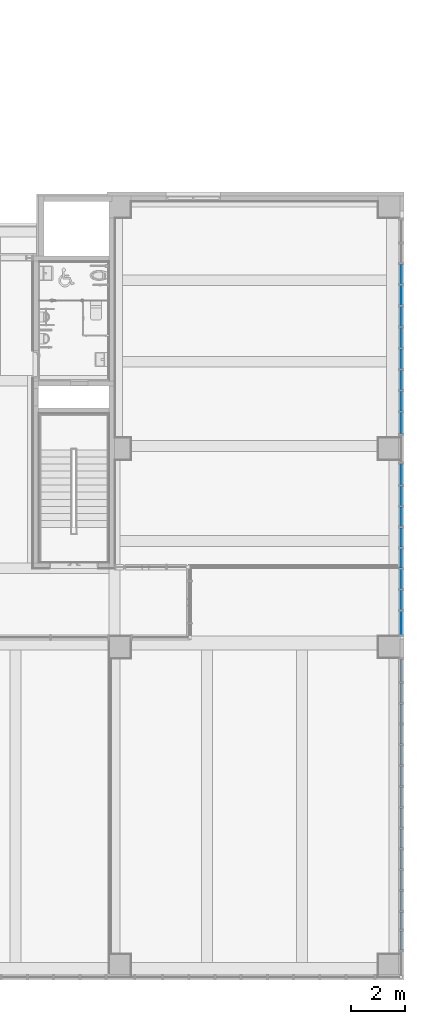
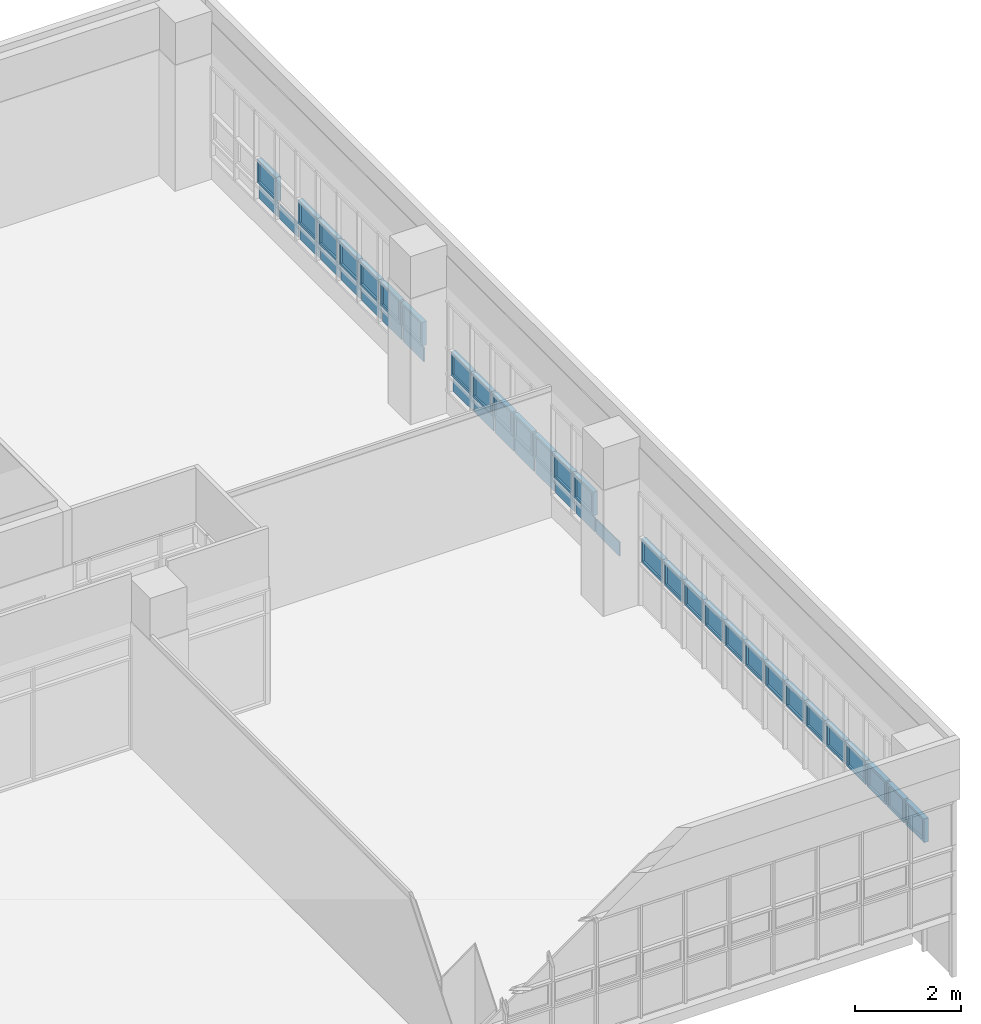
# One storey, part 39 of 81: 44 plates, 2 elements without a shape of their own.
"""IFC2X3 building model written with IfcOpenShell, lengths in millimetres."""

from ifc_helpers import new_model, entity, si_unit, converted_unit, derived_unit, direction, frame, origin, origin_2d_with_axis, place, context, subcontext, project, spatial, polyline, rectangle, outline, extrude, source, transform, mapped, material, material_list, type_object, type_shapes, element, aggregate, save


model = new_model("IFC2X3")

# Units and contexts
model_context = context("Model", 3, precision=0.01, world=origin(), true_north=direction((6.123031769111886e-17, 1.0)))
body_context = subcontext(model_context, "Body", "Model", "MODEL_VIEW")
ifc_project = project(units=[si_unit("LENGTHUNIT", "METRE", prefix="MILLI"), si_unit("AREAUNIT", "SQUARE_METRE"), si_unit("VOLUMEUNIT", "CUBIC_METRE"), converted_unit("PLANEANGLEUNIT", "DEGREE", entity("IfcRatioMeasure", 0.017453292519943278), si_unit("PLANEANGLEUNIT", "RADIAN"), dimensions=[0, 0, 0, 0, 0, 0, 0]), si_unit("MASSUNIT", "GRAM", prefix="KILO"), derived_unit("MASSDENSITYUNIT", [(si_unit("MASSUNIT", "GRAM", prefix="KILO"), 1), (si_unit("LENGTHUNIT", "METRE"), -3)]), derived_unit("MOMENTOFINERTIAUNIT", [(si_unit("LENGTHUNIT", "METRE"), 4)]), si_unit("TIMEUNIT", "SECOND"), si_unit("FREQUENCYUNIT", "HERTZ"), si_unit("THERMODYNAMICTEMPERATUREUNIT", "DEGREE_CELSIUS"), derived_unit("THERMALTRANSMITTANCEUNIT", [(si_unit("MASSUNIT", "GRAM", prefix="KILO"), 1), (si_unit("THERMODYNAMICTEMPERATUREUNIT", "KELVIN"), -1), (si_unit("TIMEUNIT", "SECOND"), -3)]), derived_unit("VOLUMETRICFLOWRATEUNIT", [(si_unit("LENGTHUNIT", "METRE"), 3), (si_unit("TIMEUNIT", "SECOND"), -1)]), derived_unit("MASSFLOWRATEUNIT", [(si_unit("MASSUNIT", "GRAM", prefix="KILO"), 1), (si_unit("TIMEUNIT", "SECOND"), -1)]), derived_unit("ROTATIONALFREQUENCYUNIT", [(si_unit("TIMEUNIT", "SECOND"), -1)]), si_unit("ELECTRICCURRENTUNIT", "AMPERE"), si_unit("ELECTRICVOLTAGEUNIT", "VOLT"), si_unit("POWERUNIT", "WATT"), si_unit("FORCEUNIT", "NEWTON", prefix="KILO"), si_unit("ILLUMINANCEUNIT", "LUX"), si_unit("LUMINOUSFLUXUNIT", "LUMEN"), si_unit("LUMINOUSINTENSITYUNIT", "CANDELA"), derived_unit("USERDEFINED", [(si_unit("MASSUNIT", "GRAM", prefix="KILO"), -1), (si_unit("LENGTHUNIT", "METRE"), -2), (si_unit("TIMEUNIT", "SECOND"), 3), (si_unit("LUMINOUSFLUXUNIT", "LUMEN"), 1)]), derived_unit("SOUNDPOWERUNIT", [(si_unit("MASSUNIT", "GRAM", prefix="KILO"), 1), (si_unit("LENGTHUNIT", "METRE"), 2), (si_unit("TIMEUNIT", "SECOND"), -3)]), derived_unit("SOUNDPRESSUREUNIT", [(si_unit("MASSUNIT", "GRAM", prefix="KILO"), 1), (si_unit("LENGTHUNIT", "METRE"), -1), (si_unit("TIMEUNIT", "SECOND"), -2)]), derived_unit("LINEARVELOCITYUNIT", [(si_unit("LENGTHUNIT", "METRE"), 1), (si_unit("TIMEUNIT", "SECOND"), -1)]), si_unit("PRESSUREUNIT", "PASCAL"), derived_unit("USERDEFINED", [(si_unit("LENGTHUNIT", "METRE"), -2), (si_unit("MASSUNIT", "GRAM", prefix="KILO"), 1), (si_unit("TIMEUNIT", "SECOND"), -2)]), derived_unit("LINEARFORCEUNIT", [(si_unit("MASSUNIT", "GRAM", prefix="KILO"), 1), (si_unit("LENGTHUNIT", "METRE"), 1), (si_unit("TIMEUNIT", "SECOND"), -2), (si_unit("LENGTHUNIT", "METRE"), -1)]), derived_unit("PLANARFORCEUNIT", [(si_unit("MASSUNIT", "GRAM", prefix="KILO"), 1), (si_unit("LENGTHUNIT", "METRE"), 1), (si_unit("TIMEUNIT", "SECOND"), -2), (si_unit("LENGTHUNIT", "METRE"), -2)])], contexts=[model_context])

# Site, building, storey
site_placement = place(None, frame((-14167.972527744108, -657.2125860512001, 0.0)))
site = spatial("IfcSite", under=ifc_project, at=site_placement, Name="Default", CompositionType="ELEMENT")
building_placement = place(site_placement, origin())
building = spatial("IfcBuilding", under=site, at=building_placement, Name="Sample Building", CompositionType="ELEMENT")
storey_placement = place(building_placement, frame((0.0, 0.0, 13400.0)))
storey = spatial("IfcBuildingStorey", under=building, at=storey_placement, Name="지상 4층", CompositionType="ELEMENT", Elevation=13400.00000000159)

# Curtain wall, plates
curtain_wall_type = type_object("IfcCurtainWallType", Name="커튼월:CW112-스테인리스 스틸 커튼월", PredefinedType="NOTDEFINED")
curtain_wall_1_placement = place(storey_placement, frame((0.0, 0.0, -13400.0)))
curtain_wall_1 = element("IfcCurtainWall", 1, at=curtain_wall_1_placement, inside=storey, type_object=curtain_wall_type, Name="커튼월:CW112-스테인리스 스틸 커튼월", ObjectType="커튼월:CW112-스테인리스 스틸 커튼월")
ifc_material_1 = material(Name="KBIMS-유리")
ifc_material_2 = material(Name="KBIMS-알루미늄")
ifc_material_list_1 = material_list([ifc_material_1, ifc_material_2])
ifc_material_list_2 = material_list([ifc_material_1, ifc_material_2])
plate_type_1 = type_object("IfcPlateType", Name="CW410-프로젝트 창:CW410-프로젝트 창 (하부개폐)", PredefinedType="CURTAIN_PANEL", material=ifc_material_list_2)
shared_shape_1 = source(origin(), body_context, "Body", "SweptSolid", [
    extrude(rectangle(XDim=23.999999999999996, YDim=629.0000000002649, at=origin_2d_with_axis()), frame((0.0, 0.04999999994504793, 50.0), z_axis=(0.0, 0.0, 1.0), x_axis=(0.0, 1.0, 0.0)), (0.0, 0.0, 1.0), 450.0000000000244),
    extrude(outline(polyline([(-364.5000000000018, -275.0), (364.5000000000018, -275.0), (364.5000000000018, 275.0), (-364.5000000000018, 275.0), (-364.5000000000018, -275.0)]), holes=[polyline([(-314.50000000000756, -225.0), (-314.5000000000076, 225.0), (314.5000000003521, 225.0), (314.50000000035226, -225.0), (-314.50000000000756, -225.0)])]), frame((0.0, -49.95000000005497, 275.0), z_axis=(0.0, 1.0, 0.0), x_axis=(1.0, 0.0, 0.0)), (0.0, 0.0, 1.0), 99.99999999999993),
])
type_shapes(plate_type_1, [shared_shape_1])
plate_1_placement = place(curtain_wall_1_placement, frame((51517.96382893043, 26384.21229514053, 14425.0), z_axis=(0.0, 0.0, 1.0), x_axis=(0.0, -1.0, 0.0)))
plate_1 = element("IfcPlate", 2, at=plate_1_placement, type_object=plate_type_1, material=ifc_material_list_1, Name="CW410-프로젝트 창:CW410-프로젝트 창 (하부개폐)", ObjectType="CW410-프로젝트 창:CW410-프로젝트 창 (하부개폐)", context=body_context, shape_type="MappedRepresentation", body=[
    mapped(shared_shape_1, transform((0.0, 0.0, 0.0), scale=1.0)),
])
ifc_material_list_3 = material_list([ifc_material_1, ifc_material_2])
plate_2_placement = place(curtain_wall_1_placement, frame((51517.96382893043, 24826.21229514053, 14425.0), z_axis=(0.0, 0.0, 1.0), x_axis=(0.0, -1.0, 0.0)))
plate_2 = element("IfcPlate", 3, at=plate_2_placement, type_object=plate_type_1, material=ifc_material_list_3, Name="CW410-프로젝트 창:CW410-프로젝트 창 (하부개폐)", ObjectType="CW410-프로젝트 창:CW410-프로젝트 창 (하부개폐)", context=body_context, shape_type="MappedRepresentation", body=[
    mapped(shared_shape_1, transform((0.0, 0.0, 0.0), scale=1.0)),
])
ifc_material_list_4 = material_list([ifc_material_1, ifc_material_2])
plate_3_placement = place(curtain_wall_1_placement, frame((51517.96382893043, 24047.212295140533, 14425.0), z_axis=(0.0, 0.0, 1.0), x_axis=(0.0, -1.0, 0.0)))
plate_3 = element("IfcPlate", 4, at=plate_3_placement, type_object=plate_type_1, material=ifc_material_list_4, Name="CW410-프로젝트 창:CW410-프로젝트 창 (하부개폐)", ObjectType="CW410-프로젝트 창:CW410-프로젝트 창 (하부개폐)", context=body_context, shape_type="MappedRepresentation", body=[
    mapped(shared_shape_1, transform((0.0, 0.0, 0.0), scale=1.0)),
])
ifc_material_list_5 = material_list([ifc_material_1, ifc_material_2])
plate_4_placement = place(curtain_wall_1_placement, frame((51517.963828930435, 23268.21229514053, 14425.0), z_axis=(0.0, 0.0, 1.0), x_axis=(0.0, -1.0, 0.0)))
plate_4 = element("IfcPlate", 5, at=plate_4_placement, type_object=plate_type_1, material=ifc_material_list_5, Name="CW410-프로젝트 창:CW410-프로젝트 창 (하부개폐)", ObjectType="CW410-프로젝트 창:CW410-프로젝트 창 (하부개폐)", context=body_context, shape_type="MappedRepresentation", body=[
    mapped(shared_shape_1, transform((0.0, 0.0, 0.0), scale=1.0)),
])
ifc_material_list_6 = material_list([ifc_material_1, ifc_material_2])
plate_5_placement = place(curtain_wall_1_placement, frame((51517.963828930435, 22489.212295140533, 14425.0), z_axis=(0.0, 0.0, 1.0), x_axis=(0.0, -1.0, 0.0)))
plate_5 = element("IfcPlate", 6, at=plate_5_placement, type_object=plate_type_1, material=ifc_material_list_6, Name="CW410-프로젝트 창:CW410-프로젝트 창 (하부개폐)", ObjectType="CW410-프로젝트 창:CW410-프로젝트 창 (하부개폐)", context=body_context, shape_type="MappedRepresentation", body=[
    mapped(shared_shape_1, transform((0.0, 0.0, 0.0), scale=1.0)),
])
ifc_material_list_7 = material_list([ifc_material_1, ifc_material_2])
plate_6_placement = place(curtain_wall_1_placement, frame((51517.963828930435, 21710.21229514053, 14425.0), z_axis=(0.0, 0.0, 1.0), x_axis=(0.0, -1.0, 0.0)))
plate_6 = element("IfcPlate", 7, at=plate_6_placement, type_object=plate_type_1, material=ifc_material_list_7, Name="CW410-프로젝트 창:CW410-프로젝트 창 (하부개폐)", ObjectType="CW410-프로젝트 창:CW410-프로젝트 창 (하부개폐)", context=body_context, shape_type="MappedRepresentation", body=[
    mapped(shared_shape_1, transform((0.0, 0.0, 0.0), scale=1.0)),
])
ifc_material_list_8 = material_list([ifc_material_1, ifc_material_2])
ifc_material_list_9 = material_list([ifc_material_1, ifc_material_2])
plate_type_2 = type_object("IfcPlateType", Name="CW410-프로젝트 창:CW410-프로젝트 창 (하부개폐)", PredefinedType="CURTAIN_PANEL", material=ifc_material_list_9)
shared_shape_2 = source(origin(), body_context, "Body", "SweptSolid", [
    extrude(rectangle(XDim=23.999999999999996, YDim=689.0000000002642, at=origin_2d_with_axis()), frame((0.0, 0.04999999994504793, 50.0), z_axis=(0.0, 0.0, 1.0), x_axis=(0.0, 1.0, 0.0)), (0.0, 0.0, 1.0), 450.0000000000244),
    extrude(outline(polyline([(-394.5000000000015, -275.0), (394.5000000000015, -275.0), (394.5000000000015, 275.0), (-394.5000000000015, 275.0), (-394.5000000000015, -275.0)]), holes=[polyline([(-344.5000000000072, -225.0), (-344.5000000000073, 225.0), (344.5000000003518, 225.0), (344.5000000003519, -225.0), (-344.5000000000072, -225.0)])]), frame((0.0, -49.95000000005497, 275.0), z_axis=(0.0, 1.0, 0.0), x_axis=(1.0, 0.0, 0.0)), (0.0, 0.0, 1.0), 99.99999999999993),
])
type_shapes(plate_type_2, [shared_shape_2])
plate_7_placement = place(curtain_wall_1_placement, frame((51517.963828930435, 20901.21229514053, 14425.0), z_axis=(0.0, 0.0, 1.0), x_axis=(0.0, -1.0, 0.0)))
plate_7 = element("IfcPlate", 8, at=plate_7_placement, type_object=plate_type_2, material=ifc_material_list_8, Name="CW410-프로젝트 창:CW410-프로젝트 창 (하부개폐)", ObjectType="CW410-프로젝트 창:CW410-프로젝트 창 (하부개폐)", context=body_context, shape_type="MappedRepresentation", body=[
    mapped(shared_shape_2, transform((0.0, 0.0, 0.0), scale=1.0)),
])
ifc_material_list_10 = material_list([ifc_material_1, ifc_material_2])
ifc_material_list_11 = material_list([ifc_material_1, ifc_material_2])
plate_type_3 = type_object("IfcPlateType", Name="CW410-프로젝트 창:CW410-프로젝트 창 (하부개폐)", PredefinedType="CURTAIN_PANEL", material=ifc_material_list_11)
shared_shape_3 = source(origin(), body_context, "Body", "SweptSolid", [
    extrude(rectangle(XDim=23.999999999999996, YDim=676.0000000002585, at=origin_2d_with_axis()), frame((0.0, 0.04999999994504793, 50.0), z_axis=(0.0, 0.0, 1.0), x_axis=(0.0, 1.0, 0.0)), (0.0, 0.0, 1.0), 450.0000000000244),
    extrude(outline(polyline([(-388.0, -275.0), (388.0, -275.0), (388.0, 275.0), (-388.0, 275.0), (-388.0, -275.0)]), holes=[polyline([(-338.0, -225.0), (-338.0, 225.0), (338.0, 225.0), (338.0, -225.0), (-338.0, -225.0)])]), frame((0.0, -49.95000000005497, 275.0), z_axis=(0.0, 1.0, 0.0), x_axis=(1.0, 0.0, 0.0)), (0.0, 0.0, 1.0), 99.99999999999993),
])
type_shapes(plate_type_3, [shared_shape_3])
plate_8_placement = place(curtain_wall_1_placement, frame((51517.963828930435, 19018.71229514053, 14425.0), z_axis=(0.0, 0.0, 1.0), x_axis=(0.0, -1.0, 0.0)))
plate_8 = element("IfcPlate", 9, at=plate_8_placement, type_object=plate_type_3, material=ifc_material_list_10, Name="CW410-프로젝트 창:CW410-프로젝트 창 (하부개폐)", ObjectType="CW410-프로젝트 창:CW410-프로젝트 창 (하부개폐)", context=body_context, shape_type="MappedRepresentation", body=[
    mapped(shared_shape_3, transform((0.0, 0.0, 0.0), scale=1.0)),
])

curtain_wall_2_placement = place(storey_placement, frame((0.0, 0.0, -13400.0)))
curtain_wall_2 = element("IfcCurtainWall", 10, at=curtain_wall_2_placement, inside=storey, type_object=curtain_wall_type, Name="커튼월:CW112-스테인리스 스틸 커튼월", ObjectType="커튼월:CW112-스테인리스 스틸 커튼월")
ifc_material_list_12 = material_list([ifc_material_1, ifc_material_2])
ifc_material_list_13 = material_list([ifc_material_1, ifc_material_2])
plate_type_4 = type_object("IfcPlateType", Name="CW410-프로젝트 창:CW410-프로젝트 창 (하부개폐)", PredefinedType="CURTAIN_PANEL", material=ifc_material_list_13)
shared_shape_4 = source(origin(), body_context, "Body", "SweptSolid", [
    extrude(rectangle(XDim=23.999999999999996, YDim=616.0000000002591, at=origin_2d_with_axis()), frame((0.0, 0.04999999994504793, 50.0), z_axis=(0.0, 0.0, 1.0), x_axis=(0.0, 1.0, 0.0)), (0.0, 0.0, 1.0), 450.0000000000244),
    extrude(outline(polyline([(-358.0, -275.0), (358.0, -275.0), (358.0, 275.0), (-358.0, 275.0), (-358.0, -275.0)]), holes=[polyline([(-308.0, -225.0), (-308.0, 225.0), (308.0, 225.0), (308.0, -225.0), (-308.0, -225.0)])]), frame((0.0, -49.95000000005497, 275.0), z_axis=(0.0, 1.0, 0.0), x_axis=(1.0, 0.0, 0.0)), (0.0, 0.0, 1.0), 99.99999999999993),
])
type_shapes(plate_type_4, [shared_shape_4])
plate_9_placement = place(curtain_wall_2_placement, frame((51517.96382893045, 10976.783036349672, 14475.0), z_axis=(0.0, 0.0, 1.0), x_axis=(0.0, -1.0, 0.0)))
plate_9 = element("IfcPlate", 11, at=plate_9_placement, type_object=plate_type_4, material=ifc_material_list_12, Name="CW410-프로젝트 창:CW410-프로젝트 창 (하부개폐)", ObjectType="CW410-프로젝트 창:CW410-프로젝트 창 (하부개폐)", context=body_context, shape_type="MappedRepresentation", body=[
    mapped(shared_shape_4, transform((0.0, 0.0, 0.0), scale=1.0)),
])
ifc_material_list_14 = material_list([ifc_material_1, ifc_material_2])
plate_10_placement = place(curtain_wall_2_placement, frame((51517.96382893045, 10210.783036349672, 14475.0), z_axis=(0.0, 0.0, 1.0), x_axis=(0.0, -1.0, 0.0)))
plate_10 = element("IfcPlate", 12, at=plate_10_placement, type_object=plate_type_4, material=ifc_material_list_14, Name="CW410-프로젝트 창:CW410-프로젝트 창 (하부개폐)", ObjectType="CW410-프로젝트 창:CW410-프로젝트 창 (하부개폐)", context=body_context, shape_type="MappedRepresentation", body=[
    mapped(shared_shape_4, transform((0.0, 0.0, 0.0), scale=1.0)),
])
ifc_material_list_15 = material_list([ifc_material_1, ifc_material_2])
plate_11_placement = place(curtain_wall_2_placement, frame((51517.96382893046, 9444.783036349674, 14475.0), z_axis=(0.0, 0.0, 1.0), x_axis=(0.0, -1.0, 0.0)))
plate_11 = element("IfcPlate", 13, at=plate_11_placement, type_object=plate_type_4, material=ifc_material_list_15, Name="CW410-프로젝트 창:CW410-프로젝트 창 (하부개폐)", ObjectType="CW410-프로젝트 창:CW410-프로젝트 창 (하부개폐)", context=body_context, shape_type="MappedRepresentation", body=[
    mapped(shared_shape_4, transform((0.0, 0.0, 0.0), scale=1.0)),
])
ifc_material_list_16 = material_list([ifc_material_1, ifc_material_2])
plate_12_placement = place(curtain_wall_2_placement, frame((51517.96382893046, 8678.783036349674, 14475.0), z_axis=(0.0, 0.0, 1.0), x_axis=(0.0, -1.0, 0.0)))
plate_12 = element("IfcPlate", 14, at=plate_12_placement, type_object=plate_type_4, material=ifc_material_list_16, Name="CW410-프로젝트 창:CW410-프로젝트 창 (하부개폐)", ObjectType="CW410-프로젝트 창:CW410-프로젝트 창 (하부개폐)", context=body_context, shape_type="MappedRepresentation", body=[
    mapped(shared_shape_4, transform((0.0, 0.0, 0.0), scale=1.0)),
])
ifc_material_list_17 = material_list([ifc_material_1, ifc_material_2])
plate_13_placement = place(curtain_wall_2_placement, frame((51517.96382893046, 7912.783036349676, 14475.0), z_axis=(0.0, 0.0, 1.0), x_axis=(0.0, -1.0, 0.0)))
plate_13 = element("IfcPlate", 15, at=plate_13_placement, type_object=plate_type_4, material=ifc_material_list_17, Name="CW410-프로젝트 창:CW410-프로젝트 창 (하부개폐)", ObjectType="CW410-프로젝트 창:CW410-프로젝트 창 (하부개폐)", context=body_context, shape_type="MappedRepresentation", body=[
    mapped(shared_shape_4, transform((0.0, 0.0, 0.0), scale=1.0)),
])
ifc_material_list_18 = material_list([ifc_material_1, ifc_material_2])
plate_14_placement = place(curtain_wall_2_placement, frame((51517.96382893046, 7146.783036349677, 14475.0), z_axis=(0.0, 0.0, 1.0), x_axis=(0.0, -1.0, 0.0)))
plate_14 = element("IfcPlate", 16, at=plate_14_placement, type_object=plate_type_4, material=ifc_material_list_18, Name="CW410-프로젝트 창:CW410-프로젝트 창 (하부개폐)", ObjectType="CW410-프로젝트 창:CW410-프로젝트 창 (하부개폐)", context=body_context, shape_type="MappedRepresentation", body=[
    mapped(shared_shape_4, transform((0.0, 0.0, 0.0), scale=1.0)),
])
ifc_material_list_19 = material_list([ifc_material_1, ifc_material_2])
plate_15_placement = place(curtain_wall_2_placement, frame((51517.96382893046, 6380.783036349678, 14475.0), z_axis=(0.0, 0.0, 1.0), x_axis=(0.0, -1.0, 0.0)))
plate_15 = element("IfcPlate", 17, at=plate_15_placement, type_object=plate_type_4, material=ifc_material_list_19, Name="CW410-프로젝트 창:CW410-프로젝트 창 (하부개폐)", ObjectType="CW410-프로젝트 창:CW410-프로젝트 창 (하부개폐)", context=body_context, shape_type="MappedRepresentation", body=[
    mapped(shared_shape_4, transform((0.0, 0.0, 0.0), scale=1.0)),
])
ifc_material_list_20 = material_list([ifc_material_1, ifc_material_2])
plate_16_placement = place(curtain_wall_2_placement, frame((51517.96382893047, 5614.783036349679, 14475.0), z_axis=(0.0, 0.0, 1.0), x_axis=(0.0, -1.0, 0.0)))
plate_16 = element("IfcPlate", 18, at=plate_16_placement, type_object=plate_type_4, material=ifc_material_list_20, Name="CW410-프로젝트 창:CW410-프로젝트 창 (하부개폐)", ObjectType="CW410-프로젝트 창:CW410-프로젝트 창 (하부개폐)", context=body_context, shape_type="MappedRepresentation", body=[
    mapped(shared_shape_4, transform((0.0, 0.0, 0.0), scale=1.0)),
])
ifc_material_list_21 = material_list([ifc_material_1, ifc_material_2])
plate_17_placement = place(curtain_wall_2_placement, frame((51517.96382893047, 4848.78303634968, 14475.0), z_axis=(0.0, 0.0, 1.0), x_axis=(0.0, -1.0, 0.0)))
plate_17 = element("IfcPlate", 19, at=plate_17_placement, type_object=plate_type_4, material=ifc_material_list_21, Name="CW410-프로젝트 창:CW410-프로젝트 창 (하부개폐)", ObjectType="CW410-프로젝트 창:CW410-프로젝트 창 (하부개폐)", context=body_context, shape_type="MappedRepresentation", body=[
    mapped(shared_shape_4, transform((0.0, 0.0, 0.0), scale=1.0)),
])
ifc_material_list_22 = material_list([ifc_material_1, ifc_material_2])
plate_18_placement = place(curtain_wall_2_placement, frame((51517.96382893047, 4082.78303634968, 14475.0), z_axis=(0.0, 0.0, 1.0), x_axis=(0.0, -1.0, 0.0)))
plate_18 = element("IfcPlate", 20, at=plate_18_placement, type_object=plate_type_4, material=ifc_material_list_22, Name="CW410-프로젝트 창:CW410-프로젝트 창 (하부개폐)", ObjectType="CW410-프로젝트 창:CW410-프로젝트 창 (하부개폐)", context=body_context, shape_type="MappedRepresentation", body=[
    mapped(shared_shape_4, transform((0.0, 0.0, 0.0), scale=1.0)),
])
ifc_material_list_23 = material_list([ifc_material_1, ifc_material_2])
plate_19_placement = place(curtain_wall_2_placement, frame((51517.96382893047, 3316.783036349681, 14475.0), z_axis=(0.0, 0.0, 1.0), x_axis=(0.0, -1.0, 0.0)))
plate_19 = element("IfcPlate", 21, at=plate_19_placement, type_object=plate_type_4, material=ifc_material_list_23, Name="CW410-프로젝트 창:CW410-프로젝트 창 (하부개폐)", ObjectType="CW410-프로젝트 창:CW410-프로젝트 창 (하부개폐)", context=body_context, shape_type="MappedRepresentation", body=[
    mapped(shared_shape_4, transform((0.0, 0.0, 0.0), scale=1.0)),
])

# Plate
ifc_material_list_24 = material_list([ifc_material_1, ifc_material_2])
plate_20_placement = place(curtain_wall_1_placement, frame((51517.96382893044, 18222.71229514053, 14425.0), z_axis=(0.0, 0.0, 1.0), x_axis=(0.0, -1.0, 0.0)))
plate_20 = element("IfcPlate", 22, at=plate_20_placement, type_object=plate_type_4, material=ifc_material_list_24, Name="CW410-프로젝트 창:CW410-프로젝트 창 (하부개폐)", ObjectType="CW410-프로젝트 창:CW410-프로젝트 창 (하부개폐)", context=body_context, shape_type="MappedRepresentation", body=[
    mapped(shared_shape_4, transform((0.0, 0.0, 0.0), scale=1.0)),
])

ifc_material_list_25 = material_list([ifc_material_1, ifc_material_2])
plate_21_placement = place(curtain_wall_1_placement, frame((51517.96382893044, 17456.71229514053, 14425.0), z_axis=(0.0, 0.0, 1.0), x_axis=(0.0, -1.0, 0.0)))
plate_21 = element("IfcPlate", 23, at=plate_21_placement, type_object=plate_type_4, material=ifc_material_list_25, Name="CW410-프로젝트 창:CW410-프로젝트 창 (하부개폐)", ObjectType="CW410-프로젝트 창:CW410-프로젝트 창 (하부개폐)", context=body_context, shape_type="MappedRepresentation", body=[
    mapped(shared_shape_4, transform((0.0, 0.0, 0.0), scale=1.0)),
])

ifc_material_list_26 = material_list([ifc_material_1, ifc_material_2])
plate_22_placement = place(curtain_wall_1_placement, frame((51517.96382893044, 16690.71229514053, 14425.0), z_axis=(0.0, 0.0, 1.0), x_axis=(0.0, -1.0, 0.0)))
plate_22 = element("IfcPlate", 24, at=plate_22_placement, type_object=plate_type_4, material=ifc_material_list_26, Name="CW410-프로젝트 창:CW410-프로젝트 창 (하부개폐)", ObjectType="CW410-프로젝트 창:CW410-프로젝트 창 (하부개폐)", context=body_context, shape_type="MappedRepresentation", body=[
    mapped(shared_shape_4, transform((0.0, 0.0, 0.0), scale=1.0)),
])

ifc_material_list_27 = material_list([ifc_material_1, ifc_material_2])
plate_23_placement = place(curtain_wall_1_placement, frame((51517.96382893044, 15924.71229514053, 14425.0), z_axis=(0.0, 0.0, 1.0), x_axis=(0.0, -1.0, 0.0)))
plate_23 = element("IfcPlate", 25, at=plate_23_placement, type_object=plate_type_4, material=ifc_material_list_27, Name="CW410-프로젝트 창:CW410-프로젝트 창 (하부개폐)", ObjectType="CW410-프로젝트 창:CW410-프로젝트 창 (하부개폐)", context=body_context, shape_type="MappedRepresentation", body=[
    mapped(shared_shape_4, transform((0.0, 0.0, 0.0), scale=1.0)),
])

ifc_material_list_28 = material_list([ifc_material_1, ifc_material_2])
plate_24_placement = place(curtain_wall_1_placement, frame((51517.96382893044, 15158.71229514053, 14425.0), z_axis=(0.0, 0.0, 1.0), x_axis=(0.0, -1.0, 0.0)))
plate_24 = element("IfcPlate", 26, at=plate_24_placement, type_object=plate_type_4, material=ifc_material_list_28, Name="CW410-프로젝트 창:CW410-프로젝트 창 (하부개폐)", ObjectType="CW410-프로젝트 창:CW410-프로젝트 창 (하부개폐)", context=body_context, shape_type="MappedRepresentation", body=[
    mapped(shared_shape_4, transform((0.0, 0.0, 0.0), scale=1.0)),
])

ifc_material_list_29 = material_list([ifc_material_1, ifc_material_2])
plate_25_placement = place(curtain_wall_1_placement, frame((51517.96382893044, 14392.712295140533, 14425.0), z_axis=(0.0, 0.0, 1.0), x_axis=(0.0, -1.0, 0.0)))
plate_25 = element("IfcPlate", 27, at=plate_25_placement, type_object=plate_type_4, material=ifc_material_list_29, Name="CW410-프로젝트 창:CW410-프로젝트 창 (하부개폐)", ObjectType="CW410-프로젝트 창:CW410-프로젝트 창 (하부개폐)", context=body_context, shape_type="MappedRepresentation", body=[
    mapped(shared_shape_4, transform((0.0, 0.0, 0.0), scale=1.0)),
])

ifc_material_list_30 = material_list([ifc_material_1, ifc_material_2])
ifc_material_list_31 = material_list([ifc_material_1, ifc_material_2])
plate_type_5 = type_object("IfcPlateType", Name="CW410-프로젝트 창:CW410-프로젝트 창 (하부개폐)", PredefinedType="CURTAIN_PANEL", material=ifc_material_list_31)
shared_shape_5 = source(origin(), body_context, "Body", "SweptSolid", [
    extrude(rectangle(XDim=23.999999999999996, YDim=542.000000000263, at=origin_2d_with_axis()), frame((0.0, 0.04999999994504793, 50.0), z_axis=(0.0, 0.0, 1.0), x_axis=(0.0, 1.0, 0.0)), (0.0, 0.0, 1.0), 450.0000000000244),
    extrude(outline(polyline([(-321.0, -275.0), (321.0, -275.0), (321.0, 275.0), (-321.0, 275.0), (-321.0, -275.0)]), holes=[polyline([(-271.0, -225.0), (-271.0, 225.0), (271.0, 225.0), (271.0, -225.0), (-271.0, -225.0)])]), frame((0.0, -49.95000000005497, 275.0), z_axis=(0.0, 1.0, 0.0), x_axis=(1.0, 0.0, 0.0)), (0.0, 0.0, 1.0), 99.99999999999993),
])
type_shapes(plate_type_5, [shared_shape_5])
plate_26_placement = place(curtain_wall_2_placement, frame((51517.96382893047, 2587.783036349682, 14475.0), z_axis=(0.0, 0.0, 1.0), x_axis=(0.0, -1.0, 0.0)))
plate_26 = element("IfcPlate", 28, at=plate_26_placement, type_object=plate_type_5, material=ifc_material_list_30, Name="CW410-프로젝트 창:CW410-프로젝트 창 (하부개폐)", ObjectType="CW410-프로젝트 창:CW410-프로젝트 창 (하부개폐)", context=body_context, shape_type="MappedRepresentation", body=[
    mapped(shared_shape_5, transform((0.0, 0.0, 0.0), scale=1.0)),
])

ifc_material_list_32 = material_list([ifc_material_1, ifc_material_2])
ifc_material_list_33 = material_list([ifc_material_1, ifc_material_2])
plate_type_6 = type_object("IfcPlateType", Name="CW410-프로젝트 창:CW410-프로젝트 창 (하부개폐)", PredefinedType="CURTAIN_PANEL", material=ifc_material_list_33)
shared_shape_6 = source(origin(), body_context, "Body", "SweptSolid", [
    extrude(rectangle(XDim=602.000000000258, YDim=23.999999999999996, at=origin_2d_with_axis()), frame((0.0, -0.04999999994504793, 50.0), z_axis=(0.0, 0.0, 1.0), x_axis=(-1.0, 0.0, 0.0)), (0.0, 0.0, 1.0), 450.0000000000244),
    extrude(outline(polyline([(-351.0, -275.0), (351.0, -275.0), (351.0, 275.0), (-351.0, 275.0), (-351.0, -275.0)]), holes=[polyline([(-301.0, -225.0), (-301.0, 225.0), (301.0, 225.0), (301.0, -225.0), (-301.0, -225.0)])]), frame((0.0, -50.04999999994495, 275.0), z_axis=(0.0, 1.0, 0.0), x_axis=(1.0, 0.0, 0.0)), (0.0, 0.0, 1.0), 99.99999999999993),
])
type_shapes(plate_type_6, [shared_shape_6])
plate_27_placement = place(curtain_wall_2_placement, frame((51517.96382893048, 1865.7830363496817, 14475.0), z_axis=(0.0, 0.0, 1.0), x_axis=(0.0, -1.0, 0.0)))
plate_27 = element("IfcPlate", 29, at=plate_27_placement, type_object=plate_type_6, material=ifc_material_list_32, Name="CW410-프로젝트 창:CW410-프로젝트 창 (하부개폐)", ObjectType="CW410-프로젝트 창:CW410-프로젝트 창 (하부개폐)", context=body_context, shape_type="MappedRepresentation", body=[
    mapped(shared_shape_6, transform((0.0, 0.0, 0.0), scale=1.0)),
])

ifc_material_list_34 = material_list([ifc_material_1, ifc_material_2])
ifc_material_list_35 = material_list([ifc_material_1, ifc_material_2])
plate_type_7 = type_object("IfcPlateType", Name="CW410-프로젝트 창:CW410-프로젝트 창 (하부개폐)", PredefinedType="CURTAIN_PANEL", material=ifc_material_list_35)
shared_shape_7 = source(origin(), body_context, "Body", "SweptSolid", [
    extrude(rectangle(XDim=23.999999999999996, YDim=722.3945880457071, at=origin_2d_with_axis()), frame((0.0, 0.04999999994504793, 50.0), z_axis=(0.0, 0.0, 1.0), x_axis=(0.0, 1.0, 0.0)), (0.0, 0.0, 1.0), 450.00000000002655),
    extrude(outline(polyline([(-411.19729402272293, -275.0), (411.19729402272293, -275.0), (411.19729402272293, 275.0), (-411.19729402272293, 275.0), (-411.19729402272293, -275.0)]), holes=[polyline([(-361.1972940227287, -225.0), (-361.1972940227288, 225.0), (361.19729402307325, 225.0), (361.19729402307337, -225.0), (-361.1972940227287, -225.0)])]), frame((0.0, -49.95000000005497, 275.0), z_axis=(0.0, 1.0, 0.0), x_axis=(1.0, 0.0, 0.0)), (0.0, 0.0, 1.0), 99.99999999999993),
])
type_shapes(plate_type_7, [shared_shape_7])
plate_28_placement = place(curtain_wall_2_placement, frame((51517.96382893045, 11795.980330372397, 14475.0), z_axis=(0.0, 0.0, 1.0), x_axis=(0.0, -1.0, 0.0)))
plate_28 = element("IfcPlate", 30, at=plate_28_placement, type_object=plate_type_7, material=ifc_material_list_34, Name="CW410-프로젝트 창:CW410-프로젝트 창 (하부개폐)", ObjectType="CW410-프로젝트 창:CW410-프로젝트 창 (하부개폐)", context=body_context, shape_type="MappedRepresentation", body=[
    mapped(shared_shape_7, transform((0.0, 0.0, 0.0), scale=1.0)),
])

aggregate(curtain_wall_2, [plate_28, plate_9, plate_10, plate_11, plate_12, plate_13, plate_14, plate_15, plate_16, plate_17, plate_18, plate_19, plate_26, plate_27])

ifc_material_3 = material(Name="KBIMS-로이유리(코팅)")
plate_type_8 = type_object("IfcPlateType", Name="CW300-THK24.Low-e coating glass:CW300-THK24.Low-e coating glass", PredefinedType="CURTAIN_PANEL", material=ifc_material_3)
shared_shape_8 = source(origin(), body_context, "Body", "SweptSolid", [
    extrude(rectangle(XDim=24.000000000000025, YDim=729.0000000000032, at=origin_2d_with_axis()), frame((0.0, 0.0, 0.0), z_axis=(0.0, 0.0, 1.0), x_axis=(0.0, 1.0, 0.0)), (0.0, 0.0, 1.0), 324.9999999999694),
])
type_shapes(plate_type_8, [shared_shape_8])
plate_29_placement = place(curtain_wall_1_placement, frame((51517.96382893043, 26384.21229514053, 14050.0), z_axis=(0.0, 0.0, 1.0), x_axis=(0.0, -1.0, 0.0)))
plate_29 = element("IfcPlate", 31, at=plate_29_placement, type_object=plate_type_8, material=ifc_material_3, Name="CW300-THK24.Low-e coating glass:CW300-THK24.Low-e coating glass", ObjectType="CW300-THK24.Low-e coating glass:CW300-THK24.Low-e coating glass", context=body_context, shape_type="MappedRepresentation", body=[
    mapped(shared_shape_8, transform((0.0, 0.0, 0.0), scale=1.0)),
])

plate_30_placement = place(curtain_wall_1_placement, frame((51517.96382893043, 25605.212295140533, 14050.0), z_axis=(0.0, 0.0, 1.0), x_axis=(0.0, -1.0, 0.0)))
plate_30 = element("IfcPlate", 32, at=plate_30_placement, type_object=plate_type_8, material=ifc_material_3, Name="CW300-THK24.Low-e coating glass:CW300-THK24.Low-e coating glass", ObjectType="CW300-THK24.Low-e coating glass:CW300-THK24.Low-e coating glass", context=body_context, shape_type="MappedRepresentation", body=[
    mapped(shared_shape_8, transform((0.0, 0.0, 0.0), scale=1.0)),
])

plate_31_placement = place(curtain_wall_1_placement, frame((51517.96382893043, 24826.21229514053, 14050.0), z_axis=(0.0, 0.0, 1.0), x_axis=(0.0, -1.0, 0.0)))
plate_31 = element("IfcPlate", 33, at=plate_31_placement, type_object=plate_type_8, material=ifc_material_3, Name="CW300-THK24.Low-e coating glass:CW300-THK24.Low-e coating glass", ObjectType="CW300-THK24.Low-e coating glass:CW300-THK24.Low-e coating glass", context=body_context, shape_type="MappedRepresentation", body=[
    mapped(shared_shape_8, transform((0.0, 0.0, 0.0), scale=1.0)),
])

plate_32_placement = place(curtain_wall_1_placement, frame((51517.96382893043, 24047.212295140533, 14050.0), z_axis=(0.0, 0.0, 1.0), x_axis=(0.0, -1.0, 0.0)))
plate_32 = element("IfcPlate", 34, at=plate_32_placement, type_object=plate_type_8, material=ifc_material_3, Name="CW300-THK24.Low-e coating glass:CW300-THK24.Low-e coating glass", ObjectType="CW300-THK24.Low-e coating glass:CW300-THK24.Low-e coating glass", context=body_context, shape_type="MappedRepresentation", body=[
    mapped(shared_shape_8, transform((0.0, 0.0, 0.0), scale=1.0)),
])

plate_33_placement = place(curtain_wall_1_placement, frame((51517.963828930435, 23268.21229514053, 14050.0), z_axis=(0.0, 0.0, 1.0), x_axis=(0.0, -1.0, 0.0)))
plate_33 = element("IfcPlate", 35, at=plate_33_placement, type_object=plate_type_8, material=ifc_material_3, Name="CW300-THK24.Low-e coating glass:CW300-THK24.Low-e coating glass", ObjectType="CW300-THK24.Low-e coating glass:CW300-THK24.Low-e coating glass", context=body_context, shape_type="MappedRepresentation", body=[
    mapped(shared_shape_8, transform((0.0, 0.0, 0.0), scale=1.0)),
])

plate_34_placement = place(curtain_wall_1_placement, frame((51517.963828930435, 22489.212295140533, 14050.0), z_axis=(0.0, 0.0, 1.0), x_axis=(0.0, -1.0, 0.0)))
plate_34 = element("IfcPlate", 36, at=plate_34_placement, type_object=plate_type_8, material=ifc_material_3, Name="CW300-THK24.Low-e coating glass:CW300-THK24.Low-e coating glass", ObjectType="CW300-THK24.Low-e coating glass:CW300-THK24.Low-e coating glass", context=body_context, shape_type="MappedRepresentation", body=[
    mapped(shared_shape_8, transform((0.0, 0.0, 0.0), scale=1.0)),
])

plate_35_placement = place(curtain_wall_1_placement, frame((51517.963828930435, 21710.21229514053, 14050.0), z_axis=(0.0, 0.0, 1.0), x_axis=(0.0, -1.0, 0.0)))
plate_35 = element("IfcPlate", 37, at=plate_35_placement, type_object=plate_type_8, material=ifc_material_3, Name="CW300-THK24.Low-e coating glass:CW300-THK24.Low-e coating glass", ObjectType="CW300-THK24.Low-e coating glass:CW300-THK24.Low-e coating glass", context=body_context, shape_type="MappedRepresentation", body=[
    mapped(shared_shape_8, transform((0.0, 0.0, 0.0), scale=1.0)),
])

plate_type_9 = type_object("IfcPlateType", Name="CW300-THK24.Low-e coating glass:CW300-THK24.Low-e coating glass", PredefinedType="CURTAIN_PANEL", material=ifc_material_3)
shared_shape_9 = source(origin(), body_context, "Body", "SweptSolid", [
    extrude(rectangle(XDim=24.000000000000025, YDim=789.0000000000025, at=origin_2d_with_axis()), frame((0.0, 0.0, 0.0), z_axis=(0.0, 0.0, 1.0), x_axis=(0.0, 1.0, 0.0)), (0.0, 0.0, 1.0), 324.9999999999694),
])
type_shapes(plate_type_9, [shared_shape_9])
plate_36_placement = place(curtain_wall_1_placement, frame((51517.963828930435, 20901.21229514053, 14050.0), z_axis=(0.0, 0.0, 1.0), x_axis=(0.0, -1.0, 0.0)))
plate_36 = element("IfcPlate", 38, at=plate_36_placement, type_object=plate_type_9, material=ifc_material_3, Name="CW300-THK24.Low-e coating glass:CW300-THK24.Low-e coating glass", ObjectType="CW300-THK24.Low-e coating glass:CW300-THK24.Low-e coating glass", context=body_context, shape_type="MappedRepresentation", body=[
    mapped(shared_shape_9, transform((0.0, 0.0, 0.0), scale=1.0)),
])

plate_type_10 = type_object("IfcPlateType", Name="CW300-THK24.Low-e coating glass:CW300-THK24.Low-e coating glass", PredefinedType="CURTAIN_PANEL", material=ifc_material_3)
shared_shape_10 = source(origin(), body_context, "Body", "SweptSolid", [
    extrude(rectangle(XDim=24.000000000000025, YDim=775.999999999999, at=origin_2d_with_axis()), frame((0.0, 0.0, 0.0), z_axis=(0.0, 0.0, 1.0), x_axis=(0.0, 1.0, 0.0)), (0.0, 0.0, 1.0), 324.9999999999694),
])
type_shapes(plate_type_10, [shared_shape_10])
plate_37_placement = place(curtain_wall_1_placement, frame((51517.963828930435, 19018.71229514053, 14050.0), z_axis=(0.0, 0.0, 1.0), x_axis=(0.0, -1.0, 0.0)))
plate_37 = element("IfcPlate", 39, at=plate_37_placement, type_object=plate_type_10, material=ifc_material_3, Name="CW300-THK24.Low-e coating glass:CW300-THK24.Low-e coating glass", ObjectType="CW300-THK24.Low-e coating glass:CW300-THK24.Low-e coating glass", context=body_context, shape_type="MappedRepresentation", body=[
    mapped(shared_shape_10, transform((0.0, 0.0, 0.0), scale=1.0)),
])

plate_type_11 = type_object("IfcPlateType", Name="CW300-THK24.Low-e coating glass:CW300-THK24.Low-e coating glass", PredefinedType="CURTAIN_PANEL", material=ifc_material_3)
shared_shape_11 = source(origin(), body_context, "Body", "SweptSolid", [
    extrude(rectangle(XDim=24.000000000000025, YDim=715.9999999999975, at=origin_2d_with_axis()), frame((0.0, 0.0, 0.0), z_axis=(0.0, 0.0, 1.0), x_axis=(0.0, 1.0, 0.0)), (0.0, 0.0, 1.0), 324.9999999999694),
])
type_shapes(plate_type_11, [shared_shape_11])
plate_38_placement = place(curtain_wall_1_placement, frame((51517.96382893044, 18222.71229514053, 14050.0), z_axis=(0.0, 0.0, 1.0), x_axis=(0.0, -1.0, 0.0)))
plate_38 = element("IfcPlate", 40, at=plate_38_placement, type_object=plate_type_11, material=ifc_material_3, Name="CW300-THK24.Low-e coating glass:CW300-THK24.Low-e coating glass", ObjectType="CW300-THK24.Low-e coating glass:CW300-THK24.Low-e coating glass", context=body_context, shape_type="MappedRepresentation", body=[
    mapped(shared_shape_11, transform((0.0, 0.0, 0.0), scale=1.0)),
])

plate_39_placement = place(curtain_wall_1_placement, frame((51517.96382893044, 17456.71229514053, 14050.0), z_axis=(0.0, 0.0, 1.0), x_axis=(0.0, -1.0, 0.0)))
plate_39 = element("IfcPlate", 41, at=plate_39_placement, type_object=plate_type_11, material=ifc_material_3, Name="CW300-THK24.Low-e coating glass:CW300-THK24.Low-e coating glass", ObjectType="CW300-THK24.Low-e coating glass:CW300-THK24.Low-e coating glass", context=body_context, shape_type="MappedRepresentation", body=[
    mapped(shared_shape_11, transform((0.0, 0.0, 0.0), scale=1.0)),
])

plate_40_placement = place(curtain_wall_1_placement, frame((51517.96382893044, 16690.71229514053, 14050.0), z_axis=(0.0, 0.0, 1.0), x_axis=(0.0, -1.0, 0.0)))
plate_40 = element("IfcPlate", 42, at=plate_40_placement, type_object=plate_type_11, material=ifc_material_3, Name="CW300-THK24.Low-e coating glass:CW300-THK24.Low-e coating glass", ObjectType="CW300-THK24.Low-e coating glass:CW300-THK24.Low-e coating glass", context=body_context, shape_type="MappedRepresentation", body=[
    mapped(shared_shape_11, transform((0.0, 0.0, 0.0), scale=1.0)),
])

plate_41_placement = place(curtain_wall_1_placement, frame((51517.96382893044, 15924.71229514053, 14050.0), z_axis=(0.0, 0.0, 1.0), x_axis=(0.0, -1.0, 0.0)))
plate_41 = element("IfcPlate", 43, at=plate_41_placement, type_object=plate_type_11, material=ifc_material_3, Name="CW300-THK24.Low-e coating glass:CW300-THK24.Low-e coating glass", ObjectType="CW300-THK24.Low-e coating glass:CW300-THK24.Low-e coating glass", context=body_context, shape_type="MappedRepresentation", body=[
    mapped(shared_shape_11, transform((0.0, 0.0, 0.0), scale=1.0)),
])

plate_42_placement = place(curtain_wall_1_placement, frame((51517.96382893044, 15158.71229514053, 14050.0), z_axis=(0.0, 0.0, 1.0), x_axis=(0.0, -1.0, 0.0)))
plate_42 = element("IfcPlate", 44, at=plate_42_placement, type_object=plate_type_11, material=ifc_material_3, Name="CW300-THK24.Low-e coating glass:CW300-THK24.Low-e coating glass", ObjectType="CW300-THK24.Low-e coating glass:CW300-THK24.Low-e coating glass", context=body_context, shape_type="MappedRepresentation", body=[
    mapped(shared_shape_11, transform((0.0, 0.0, 0.0), scale=1.0)),
])

plate_43_placement = place(curtain_wall_1_placement, frame((51517.96382893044, 14392.712295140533, 14050.0), z_axis=(0.0, 0.0, 1.0), x_axis=(0.0, -1.0, 0.0)))
plate_43 = element("IfcPlate", 45, at=plate_43_placement, type_object=plate_type_11, material=ifc_material_3, Name="CW300-THK24.Low-e coating glass:CW300-THK24.Low-e coating glass", ObjectType="CW300-THK24.Low-e coating glass:CW300-THK24.Low-e coating glass", context=body_context, shape_type="MappedRepresentation", body=[
    mapped(shared_shape_11, transform((0.0, 0.0, 0.0), scale=1.0)),
])

plate_type_12 = type_object("IfcPlateType", Name="CW300-THK24.Low-e coating glass:CW300-THK24.Low-e coating glass", PredefinedType="CURTAIN_PANEL", material=ifc_material_3)
shared_shape_12 = source(origin(), body_context, "Body", "SweptSolid", [
    extrude(rectangle(XDim=24.000000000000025, YDim=877.4999120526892, at=origin_2d_with_axis()), frame((0.0, 0.0, 0.0), z_axis=(0.0, 0.0, 1.0), x_axis=(0.0, 1.0, 0.0)), (0.0, 0.0, 1.0), 324.9999999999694),
])
type_shapes(plate_type_12, [shared_shape_12])
plate_44_placement = place(curtain_wall_1_placement, frame((51517.96382893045, 13545.962339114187, 14050.0), z_axis=(0.0, 0.0, 1.0), x_axis=(0.0, -1.0, 0.0)))
plate_44 = element("IfcPlate", 46, at=plate_44_placement, type_object=plate_type_12, material=ifc_material_3, Name="CW300-THK24.Low-e coating glass:CW300-THK24.Low-e coating glass", ObjectType="CW300-THK24.Low-e coating glass:CW300-THK24.Low-e coating glass", context=body_context, shape_type="MappedRepresentation", body=[
    mapped(shared_shape_12, transform((0.0, 0.0, 0.0), scale=1.0)),
])

aggregate(curtain_wall_1, [plate_29, plate_30, plate_31, plate_32, plate_33, plate_34, plate_35, plate_36, plate_37, plate_38, plate_39, plate_40, plate_41, plate_42, plate_43, plate_44, plate_1, plate_2, plate_3, plate_4, plate_5, plate_6, plate_7, plate_8, plate_20, plate_21, plate_22, plate_23, plate_24, plate_25])

save(model, "model.ifc")
